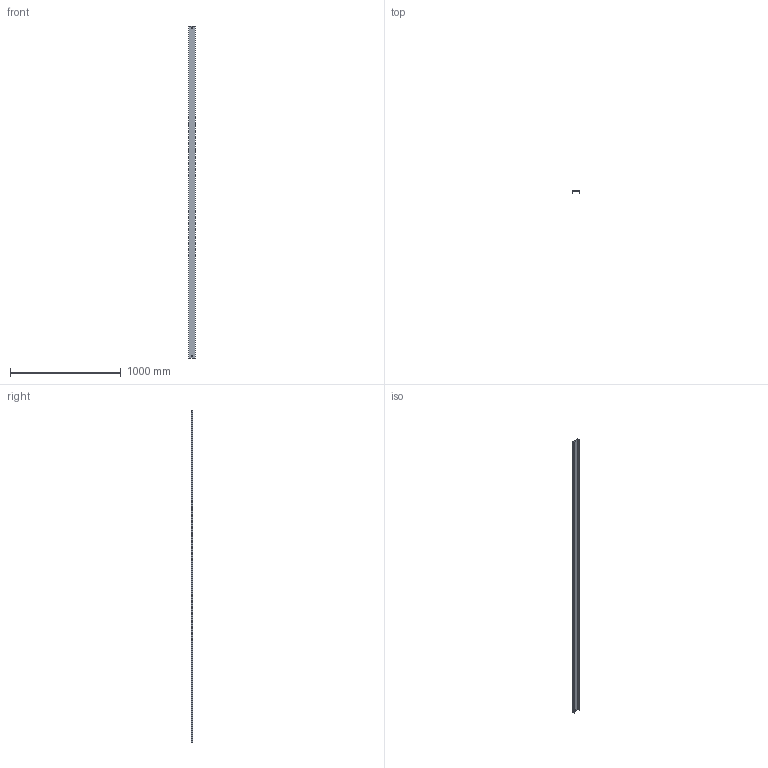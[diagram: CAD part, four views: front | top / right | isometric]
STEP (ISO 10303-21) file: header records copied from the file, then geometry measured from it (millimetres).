
FILE_DESCRIPTION (( 'STEP AP214' ), '1' );
FILE_NAME ('OCF_060.step', '2025-07-16T09:09:33', ( '' ), ( '' ), 'SwSTEP 2.0', 'SolidWorks 2023', '' );
FILE_SCHEMA (( 'AUTOMOTIVE_DESIGN' ));
Length unit declared in the file: millimetre
Products named in the file (1): OCF_060
Bounding box: 62 x 17 x 3000 mm (x, y, z)
Volume: 281916 mm3; surface area: 570072 mm2
Topology: 1 solids, 1 shells, 18 faces, 48 edges, 32 vertices
Faces by surface type: plane 18
Entity records: 583 total; most frequent: CARTESIAN_POINT 99, ORIENTED_EDGE 96, DIRECTION 86, VECTOR 48, EDGE_CURVE 48, LINE 48, VERTEX_POINT 32, EDGE_LOOP 22
